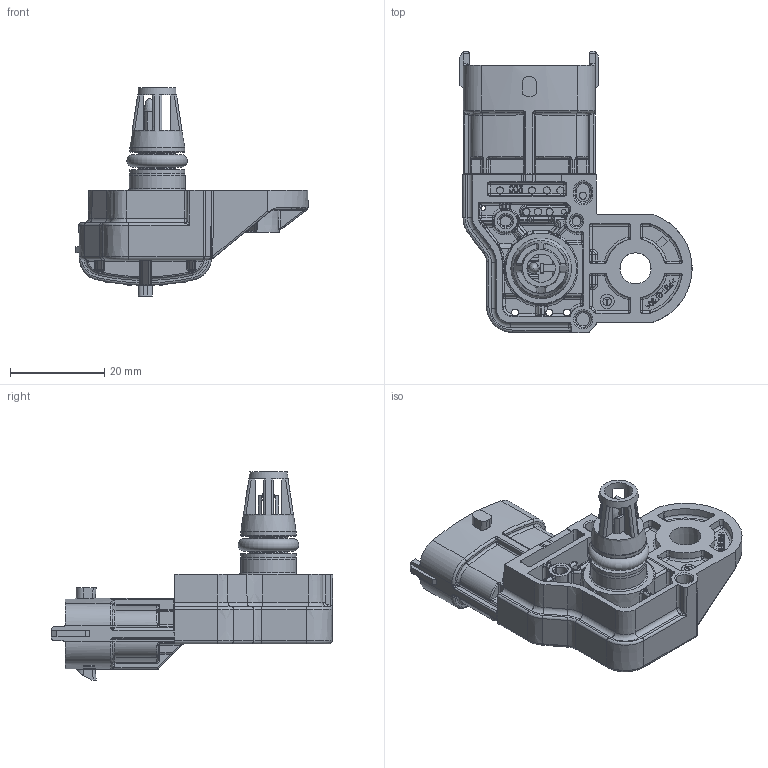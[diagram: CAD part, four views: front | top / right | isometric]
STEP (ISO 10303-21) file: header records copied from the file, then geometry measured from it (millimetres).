
FILE_DESCRIPTION(/* description */ (''),/* implementation_level */ '2;1');
FILE_NAME(/* name */ '0261a11808.001-DS-S3-TF.stp',/* time_stamp */ '2018-01-31T12:47:15+01:00',/* author */ (''),/* organization */ (''),/* preprocessor_version */ 'ST-DEVELOPER v16',/* originating_system */ 'SIEMENS PLM Software NX 11.0',/* authorisation */ '');
FILE_SCHEMA (('AUTOMOTIVE_DESIGN { 1 0 10303 214 3 1 1 1 }'));
Products named in the file (1): pag225B86238f40x
Bounding box: 49.18 x 59.63 x 44.1 mm (x, y, z)
Volume: 15932.2 mm3; surface area: 12234.1 mm2
Topology: 1 solids, 1 shells, 2215 faces, 5528 edges, 3272 vertices
Faces by surface type: plane 787, cylinder 459, bspline 420, extrusion 238, sphere 131, torus 120, cone 59, revolution 1
Full cylindrical faces by diameter (mm): 0.58 x4, 0.85 x1, 1 x2, 1.5 x11, 1.8 x1, 2.5 x1, 2.66 x1, 3 x2, 6 x1, 7.9 x2, 11.7 x2, 11.85 x1
Entity records: 74785 total; most frequent: CARTESIAN_POINT 26191, ORIENTED_EDGE 10618, DIRECTION 8843, EDGE_CURVE 5309, VERTEX_POINT 3244, AXIS2_PLACEMENT_3D 3196, VECTOR 2450, EDGE_LOOP 2381
